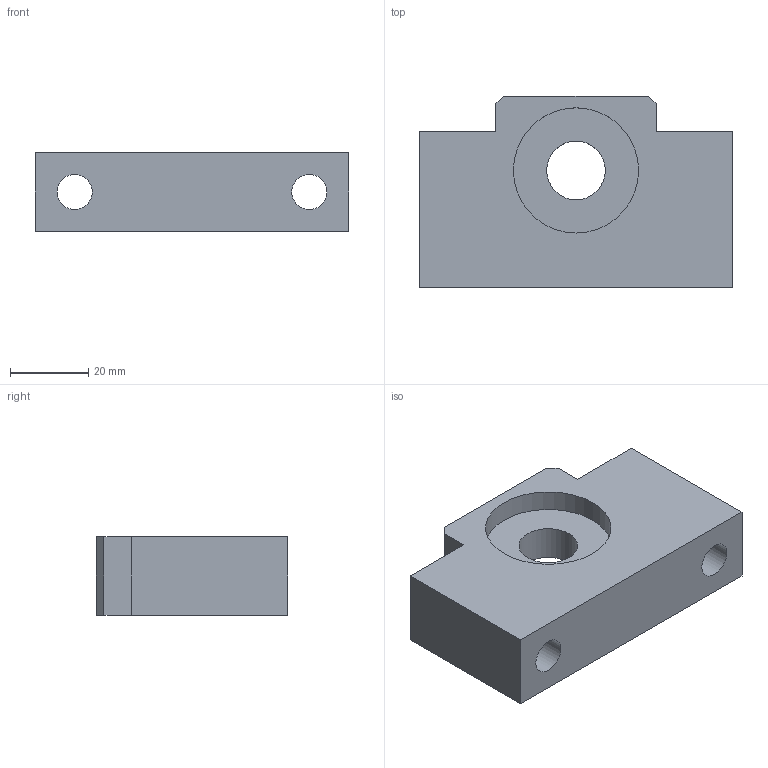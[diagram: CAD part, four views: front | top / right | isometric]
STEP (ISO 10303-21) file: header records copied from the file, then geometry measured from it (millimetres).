
FILE_DESCRIPTION(/* description */ (''),/* implementation_level */ '2;1');
FILE_NAME(/* name */ 'C:\Users\tenki620635\Desktop\官網\圖面\軸承座\3D\setp檔\AF15.stp',/* time_stamp */ '2020-11-20T17:28:38+08:00',/* author */ ('tenki620635'),/* organization */ (''),/* preprocessor_version */ 'ST-DEVELOPER v15.2',/* originating_system */ 'Autodesk Inventor 2014',/* authorisation */ '');
FILE_SCHEMA (('AUTOMOTIVE_DESIGN { 1 0 10303 214 3 1 1 }'));
Length unit declared in the file: millimetre
Products named in the file (1): AF15
Bounding box: 80 x 49 x 20 mm (x, y, z)
Volume: 53786.4 mm3; surface area: 15772.7 mm2
Topology: 1 solids, 1 shells, 23 faces, 51 edges, 34 vertices
Faces by surface type: plane 16, cylinder 7
Full cylindrical faces by diameter (mm): 9 x2, 14 x2, 15 x1, 32 x2
Entity records: 637 total; most frequent: DIRECTION 106, CARTESIAN_POINT 102, ORIENTED_EDGE 88, EDGE_CURVE 44, EDGE_LOOP 40, AXIS2_PLACEMENT_3D 38, VERTEX_POINT 34, LINE 30
